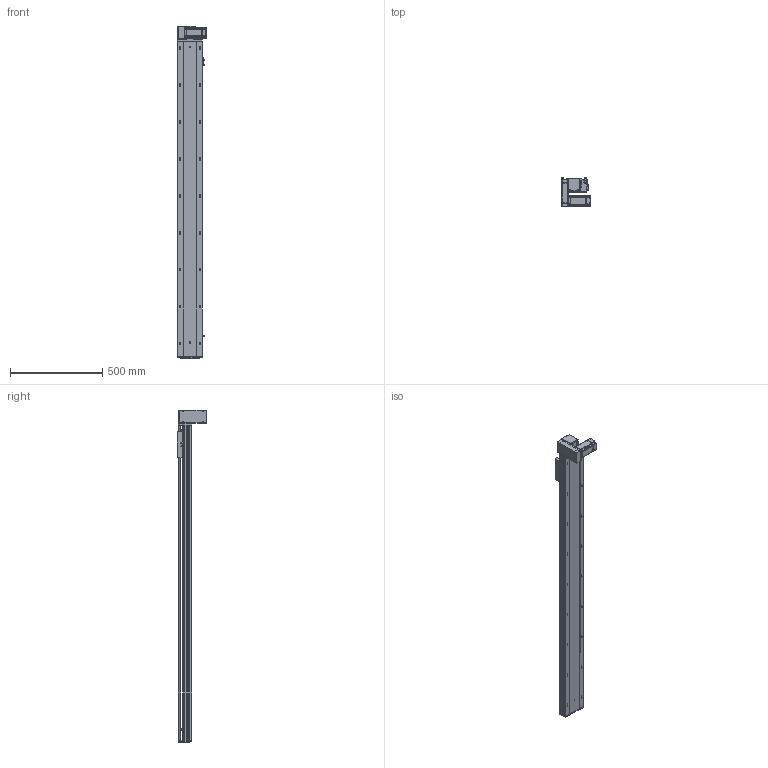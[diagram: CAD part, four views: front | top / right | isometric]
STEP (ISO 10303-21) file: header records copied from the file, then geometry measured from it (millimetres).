
FILE_DESCRIPTION (( 'STEP AP203' ), '1' );
FILE_NAME ('RY140-T-300-DL.SLDASM_1450.step', '2021-03-01T06:07:03', ( '盈信电脑' ), ( '东莞市道滘镇水果街19号' ), 'SwSTEP 2.0', 'SolidWorks 2012', '' );
FILE_SCHEMA (( 'CONFIG_CONTROL_DESIGN' ));
Length unit declared in the file: millimetre
Products named in the file (18): RY140肮祭謫臏賑輸; RY140-T-300-DL倰第菁釱_1450; RY140-T-300-DL倰第奻裔啣_1450; RY140-T翋肮謫裔啣; RY140-T-300-DL.SLDASM_1450; RY120-T主同步轮轴承压盖; 滅袉蝶18-10; RY140-T萇儂欶; RY120-T蹟翐M4; 15; RY140-T萇儂假蚾啣; RY140-T翋肮祭謫盓傅釱; 侂狟400W侜督萇儂; RY120-T肮祭湍揤踡輸1; RY120外置感应片(140共用）; 覜茼ん672; RY120-T肮祭湍揤踡輸2; RY140綴裔啣
Assembly tree (23 placements, depth 3):
  RY140-T-300-DL.SLDASM_1450
    RY140-T-300-DL倰第菁釱_1450
    RY140肮祭謫臏賑輸
    RY140-T-300-DL倰第奻裔啣_1450
    RY140綴裔啣
    覜茼ん672  x3
    RY120外置感应片(140共用）
    RY120-T肮祭湍揤踡輸2
    RY120-T肮祭湍揤踡輸1
    RY140-T翋肮祭謫盓傅釱
    RY140-T萇儂假蚾啣
    侂狟400W侜督萇儂
      15
    RY120-T主同步轮轴承压盖
    RY120-T蹟翐M4  x4
    RY140-T萇儂欶
    滅袉蝶18-10  x2
    RY140-T翋肮謫裔啣
Bounding box: 157 x 158.5 x 1796 mm (x, y, z)
Volume: 5073150.1 mm3; surface area: 1964086.9 mm2
Topology: 22 solids, 22 shells, 2770 faces, 7590 edges, 4850 vertices
Faces by surface type: plane 1385, cylinder 1035, cone 250, bspline 100
Entity records: 87548 total; most frequent: CARTESIAN_POINT 21261, ORIENTED_EDGE 13604, DIRECTION 12992, EDGE_CURVE 6802, VERTEX_POINT 4449, AXIS2_PLACEMENT_3D 4341, LINE 4310, VECTOR 4310
